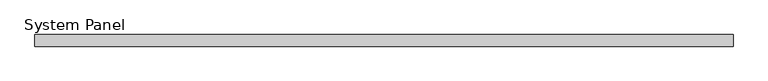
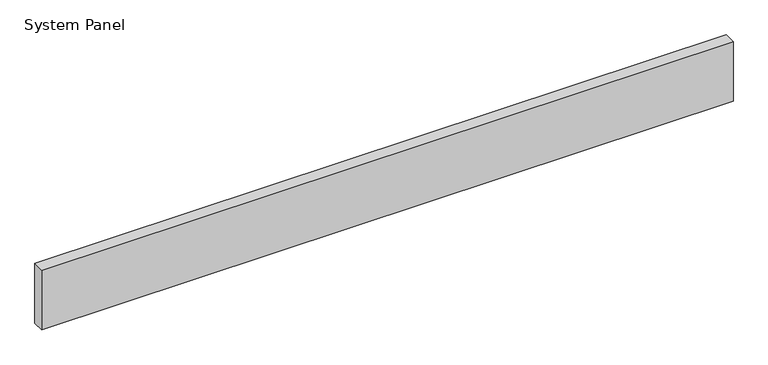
"""IFC4 building model written with IfcOpenShell, lengths in millimetres: plate geometry, System Panel : MetecnoPanel_200mm_Plain_Surfmist."""

import ifcopenshell
import ifcopenshell.guid

model = None  # the IFC model being written
_history = None  # IfcOwnerHistory: only IFC2X3 demands one
_inside = {}  # id of a spatial element -> (the spatial element, [elements in it])
_under = {}  # id of a project, library or spatial element -> (it, [spatial elements below it])
_declared = {}  # id of a project -> (the project, [libraries it declares])
_typed = {}  # id of a type object -> (the type object, [elements of that type])
_made_of = {}  # id of a material, layer set ... -> (it, [elements and type objects made of it])


def new_model(schema):
    """Start an empty IFC model of exactly this schema.

    Asked for "IFC4X3", IfcOpenShell would pick the latest addendum, in which some entities
    have other attributes; the version numbers below select the first issue.
    IFC2X3 requires an IfcOwnerHistory on every rooted entity: one is made here for all.
    """
    global model, _history
    if schema == "IFC4X3":
        model = ifcopenshell.file(schema_version=(4, 3, 0, 0))
    else:
        model = ifcopenshell.file(schema=schema)
    _inside.clear()
    _under.clear()
    _declared.clear()
    _typed.clear()
    _made_of.clear()
    _history = None
    if model.schema == "IFC2X3":
        org = make("IfcOrganization", Name="unknown")
        user = make(
            "IfcPersonAndOrganization",
            ThePerson=make("IfcPerson", FamilyName="unknown"),
            TheOrganization=org,
        )
        app = make(
            "IfcApplication",
            ApplicationDeveloper=org,
            Version="unknown",
            ApplicationFullName="unknown",
            ApplicationIdentifier="unknown",
        )
        _history = make(
            "IfcOwnerHistory",
            OwningUser=user,
            OwningApplication=app,
            ChangeAction="ADDED",
            CreationDate=0,
        )
    return model


def make(cls, **values):
    """One entity of the class cls with the attributes given. An attribute that is None is left unset."""
    return model.create_entity(
        cls, **{name: value for name, value in values.items() if value is not None}
    )


def rooted(cls, **values):
    """An entity with a GlobalId (a new one), such as an element, a storey or a relation."""
    return make(cls, GlobalId=ifcopenshell.guid.new(), OwnerHistory=_history, **values)


def si_unit(unit_type, name, prefix=None):
    """IfcSIUnit, for example si_unit("LENGTHUNIT", "METRE", prefix="MILLI")."""
    return make("IfcSIUnit", UnitType=unit_type, Prefix=prefix, Name=name)


def assignment(units):
    """IfcUnitAssignment: the units of a project."""
    return None if units is None else make("IfcUnitAssignment", Units=units)


def point(xyz):
    """IfcCartesianPoint."""
    return None if xyz is None else make("IfcCartesianPoint", Coordinates=xyz)


def direction(xyz):
    """IfcDirection."""
    return None if xyz is None else make("IfcDirection", DirectionRatios=xyz)


def frame(location, z_axis=None, x_axis=None):
    """IfcAxis2Placement3D, a coordinate frame: its origin and axes. An axis left out is left unset."""
    return make(
        "IfcAxis2Placement3D",
        Location=point(location),
        Axis=direction(z_axis),
        RefDirection=direction(x_axis),
    )


def origin():
    """The frame at (0, 0, 0) with its axes left unset."""
    return frame((0.0, 0.0, 0.0))


def origin_with_axes():
    """The frame at (0, 0, 0) with the z axis (0, 0, 1) and the x axis (1, 0, 0) written out."""
    return frame((0.0, 0.0, 0.0), z_axis=(0.0, 0.0, 1.0), x_axis=(1.0, 0.0, 0.0))


def place(relative_to, where):
    """IfcLocalPlacement: puts the frame where relative to a parent placement (None: the world)."""
    return make(
        "IfcLocalPlacement", PlacementRelTo=relative_to, RelativePlacement=where
    )


def context(
    kind, dimensions, precision=None, world=None, true_north=None, identifier=None
):
    """IfcGeometricRepresentationContext, for example the 3D "Model" context."""
    return make(
        "IfcGeometricRepresentationContext",
        ContextIdentifier=identifier,
        ContextType=kind,
        CoordinateSpaceDimension=dimensions,
        Precision=precision,
        WorldCoordinateSystem=world,
        TrueNorth=true_north,
    )


def project(units=None, contexts=None):
    """IfcProject with its units and contexts."""
    return rooted(
        "IfcProject",
        Name="project",
        RepresentationContexts=contexts,
        UnitsInContext=assignment(units),
    )


def spatial(cls, under=None, at=None, **own):
    """A site, building, storey or space (cls), placed at a placement, below another one or the project."""
    s = rooted(cls, ObjectPlacement=at, **own)
    if under is not None:
        _under.setdefault(under.id(), (under, []))[1].append(s)
    return s


def polyline(points):
    """IfcPolyline through the points."""
    return make("IfcPolyline", Points=[point(p) for p in points])


def outline(outer, holes=None, kind="AREA"):
    """IfcArbitraryClosedProfileDef: a profile drawn as a closed curve; with holes, ...WithVoids."""
    if holes is None:
        return make("IfcArbitraryClosedProfileDef", ProfileType=kind, OuterCurve=outer)
    return make(
        "IfcArbitraryProfileDefWithVoids",
        ProfileType=kind,
        OuterCurve=outer,
        InnerCurves=holes,
    )


def extrude(swept, where, along, depth):
    """IfcExtrudedAreaSolid: the profile swept, set in the frame where, extruded along a direction by depth."""
    return make(
        "IfcExtrudedAreaSolid",
        SweptArea=swept,
        Position=where,
        ExtrudedDirection=direction(along),
        Depth=depth,
    )


def shape(context_of_items, identifier, shape_type, items):
    """IfcShapeRepresentation: the items that make up one representation, for example the "Body"."""
    return make(
        "IfcShapeRepresentation",
        ContextOfItems=context_of_items,
        RepresentationIdentifier=identifier,
        RepresentationType=shape_type,
        Items=items,
    )


def source(mapping_origin, context_of_items, identifier, shape_type, items):
    """IfcRepresentationMap: a shape defined once, which mapped items show again and again."""
    return make(
        "IfcRepresentationMap",
        MappingOrigin=mapping_origin,
        MappedRepresentation=shape(context_of_items, identifier, shape_type, items),
    )


def transform(
    local_origin,
    x_axis=None,
    y_axis=None,
    z_axis=None,
    scale=None,
    scale2=None,
    scale3=None,
    uniform=True,
):
    """IfcCartesianTransformationOperator3D, or its non-uniform kind. x_axis, y_axis, z_axis: its Axis1, 2, 3."""
    if uniform:
        return make(
            "IfcCartesianTransformationOperator3D",
            Axis1=direction(x_axis),
            Axis2=direction(y_axis),
            LocalOrigin=point(local_origin),
            Scale=scale,
            Axis3=direction(z_axis),
        )
    return make(
        "IfcCartesianTransformationOperator3DnonUniform",
        Axis1=direction(x_axis),
        Axis2=direction(y_axis),
        LocalOrigin=point(local_origin),
        Scale=scale,
        Axis3=direction(z_axis),
        Scale2=scale2,
        Scale3=scale3,
    )


def mapped(mapping_source, mapping_target):
    """IfcMappedItem: shows the shape of a source again, moved by a transform."""
    return make(
        "IfcMappedItem", MappingSource=mapping_source, MappingTarget=mapping_target
    )


def made_of(thing, what):
    """Note that an element or type object is made of a material, layer set ...; save() writes the relation."""
    if what is not None:
        _made_of.setdefault(what.id(), (what, []))[1].append(thing)
    return thing


def element(
    cls,
    number,
    at=None,
    inside=None,
    cuts=None,
    type_object=None,
    material=None,
    context=None,
    identifier="Body",
    shape_type=None,
    held_by="IfcProductDefinitionShape",
    body=None,
    shapes=None,
    **own,
):
    """One element of the class cls, such as IfcWall. Its Tag is "e" and its number.

    at: its placement. inside: the storey or other place that contains it. cuts: it is an
    opening in that element (IfcRelVoidsElement). A single representation is given by context,
    identifier, shape_type and body (its items); several are given by shapes. held_by: the class
    of the entity that holds the representations. save() writes the other relations.
    """
    e = rooted(cls, Tag="e%d" % number, ObjectPlacement=at, **own)
    if body is not None:
        shapes = [shape(context, identifier, shape_type, body)]
    if shapes is not None:
        e.Representation = make(held_by, Representations=shapes)
    if inside is not None:
        _inside.setdefault(inside.id(), (inside, []))[1].append(e)
    if cuts is not None:
        rooted(
            "IfcRelVoidsElement", RelatingBuildingElement=cuts, RelatedOpeningElement=e
        )
    if type_object is not None:
        _typed.setdefault(type_object.id(), (type_object, []))[1].append(e)
    return made_of(e, material)


def aggregate(whole, parts):
    """IfcRelAggregates: a whole, such as a stair, and the parts it consists of."""
    return rooted("IfcRelAggregates", RelatingObject=whole, RelatedObjects=parts)


def save(model, path):
    """Write the relations noted so far, then the file.

    IfcRelAggregates (storeys below a building ...), IfcRelContainedInSpatialStructure (elements
    in a storey), IfcRelDefinesByType, IfcRelAssociatesMaterial and IfcRelDeclares: one each for
    every whole, place, type object, material and project.
    """
    for whole, parts in _under.values():
        aggregate(whole, parts)
    for where, things in _inside.values():
        rooted(
            "IfcRelContainedInSpatialStructure",
            RelatedElements=things,
            RelatingStructure=where,
        )
    for kind, things in _typed.values():
        rooted("IfcRelDefinesByType", RelatedObjects=things, RelatingType=kind)
    for what, things in _made_of.values():
        rooted("IfcRelAssociatesMaterial", RelatedObjects=things, RelatingMaterial=what)
    for by, libraries in _declared.values():
        rooted("IfcRelDeclares", RelatingContext=by, RelatedDefinitions=libraries)
    model.write(path)


def system_panel_50b8ebab(model_context):
    return source(origin(), model_context, "Body", "SweptSolid", [
        extrude(outline(polyline([(6000.0, 0.0), (-6000.0, 0.0), (-6000.0, 200.0), (6000.0, 200.0), (6000.0, 0.0)])), origin_with_axes(), (0.0, 0.0, 1.0), 1100.0),
    ])


if __name__ == "__main__":
    model = new_model("IFC4")
    model_context = context("Model", 3, world=origin())
    ifc_project = project(units=[si_unit("LENGTHUNIT", "METRE", prefix="MILLI")], contexts=[model_context])
    site = spatial("IfcSite", under=ifc_project)
    building = spatial("IfcBuilding", under=site)
    placement = place(None, origin())
    system_panel_shape = system_panel_50b8ebab(model_context)
    element("IfcPlate", 1, ObjectType="System Panel : MetecnoPanel_200mm_Plain_Surfmist", at=placement, inside=building, context=model_context, shape_type="MappedRepresentation", body=[
        mapped(system_panel_shape, transform((0.0, 0.0, 0.0), x_axis=(1.0, 0.0, 0.0), y_axis=(0.0, 1.0, 0.0), z_axis=(0.0, 0.0, 1.0))),
    ])
    save(model, "model.ifc")
